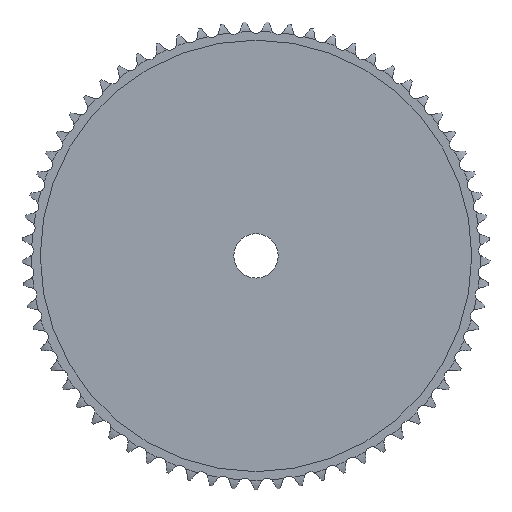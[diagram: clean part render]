
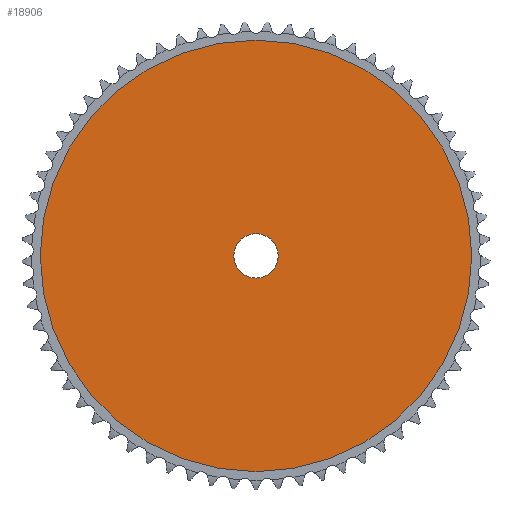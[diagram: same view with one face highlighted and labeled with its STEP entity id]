
A CAD part, top view. The second image highlights one B-rep face of the part: STEP entity #18906.
In plain terms, the highlighted planar face has unit normal (0, 0, 1).
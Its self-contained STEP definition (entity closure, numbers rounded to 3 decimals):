
#10757=CARTESIAN_POINT('',(0.,0.,2.));
#10758=DIRECTION('',(0.,0.,-1.));
#10759=DIRECTION('',(-1.,0.,0.));
#10760=AXIS2_PLACEMENT_3D('',#10757,#10758,#10759);
#10765=CARTESIAN_POINT('',(0.,0.,2.));
#10766=DIRECTION('',(0.,0.,-1.));
#10767=DIRECTION('',(1.,0.,0.));
#10768=AXIS2_PLACEMENT_3D('',#10765,#10766,#10767);
#10773=CARTESIAN_POINT('',(0.,0.,2.));
#10774=DIRECTION('',(0.,0.,1.));
#10775=DIRECTION('',(1.,0.,0.));
#10776=AXIS2_PLACEMENT_3D('',#10773,#10774,#10775);
#10781=CARTESIAN_POINT('',(0.,0.,2.));
#10782=DIRECTION('',(0.,0.,1.));
#10783=DIRECTION('',(-1.,0.,0.));
#10784=AXIS2_PLACEMENT_3D('',#10781,#10782,#10783);
#11889=CARTESIAN_POINT('',(-77.793,0.,2.));
#11890=CARTESIAN_POINT('',(77.793,0.,2.));
#11891=VERTEX_POINT('',#11889);
#11892=VERTEX_POINT('',#11890);
#11909=CARTESIAN_POINT('',(8.,0.,2.));
#11910=VERTEX_POINT('',#11909);
#11911=CARTESIAN_POINT('',(-8.,0.,2.));
#11912=VERTEX_POINT('',#11911);
#18891=CARTESIAN_POINT('',(0.,0.,2.));
#18892=DIRECTION('',(0.,0.,1.));
#18893=DIRECTION('',(1.,0.,0.));
#18894=AXIS2_PLACEMENT_3D('',#18891,#18892,#18893);
#18895=PLANE('',#18894);
#18896=ORIENTED_EDGE('',*,*,#18843,.T.);
#18897=ORIENTED_EDGE('',*,*,#18872,.T.);
#18898=EDGE_LOOP('',(#18896,#18897));
#18899=FACE_OUTER_BOUND('',#18898,.F.);
#18901=ORIENTED_EDGE('',*,*,#18900,.T.);
#18903=ORIENTED_EDGE('',*,*,#18902,.T.);
#18904=EDGE_LOOP('',(#18901,#18903));
#18905=FACE_BOUND('',#18904,.F.);
#18906=ADVANCED_FACE('',(#18899,#18905),#18895,.T.);
#10761=CIRCLE('',#10760,77.793);
#10769=CIRCLE('',#10768,77.793);
#10777=CIRCLE('',#10776,8.);
#10785=CIRCLE('',#10784,8.);
#18843=EDGE_CURVE('',#11891,#11892,#10761,.T.);
#18872=EDGE_CURVE('',#11892,#11891,#10769,.T.);
#18900=EDGE_CURVE('',#11910,#11912,#10777,.T.);
#18902=EDGE_CURVE('',#11912,#11910,#10785,.T.);
